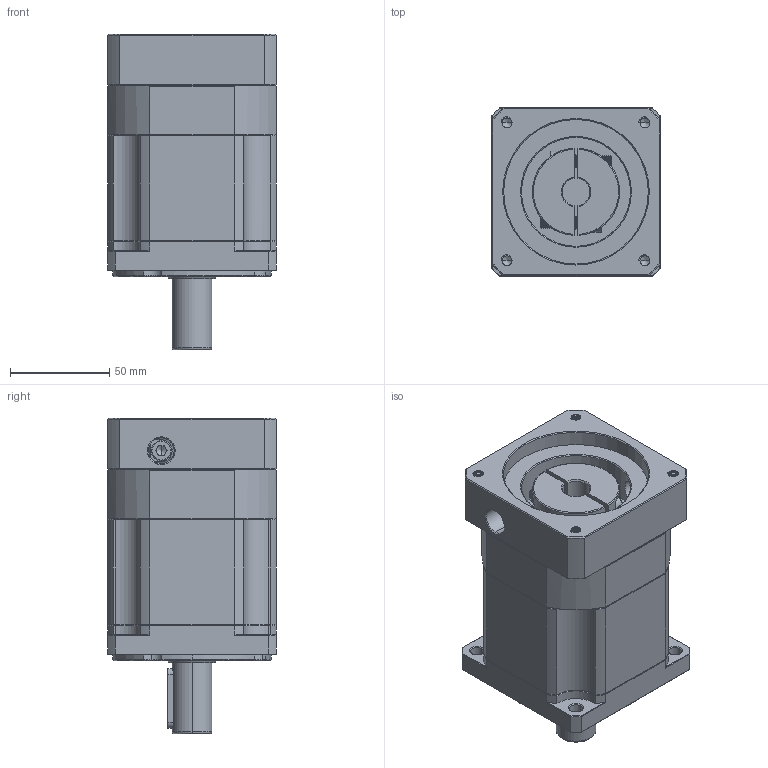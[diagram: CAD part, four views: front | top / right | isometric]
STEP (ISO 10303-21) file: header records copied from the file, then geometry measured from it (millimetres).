
FILE_DESCRIPTION (( 'STEP AP214' ), '1' );
FILE_NAME ('ZB090-D20-L2-P2-14-73-69.6X69.6-M6.step', '2023-08-18T12:10:10', ( '' ), ( '' ), 'SwSTEP 2.0', 'SolidWorks 2016', '' );
FILE_SCHEMA (( 'AUTOMOTIVE_DESIGN' ));
Length unit declared in the file: millimetre
Products named in the file (1): ZB090-D20-L2-P2-14-73-69.6X69.6-M6
Bounding box: 85 x 85 x 159.5 mm (x, y, z)
Volume: 727871.5 mm3; surface area: 92030.9 mm2
Topology: 4 solids, 5 shells, 2220 faces, 5890 edges, 3755 vertices
Faces by surface type: plane 1066, bspline 397, cylinder 396, cone 334, torus 27
Entity records: 120660 total; most frequent: CARTESIAN_POINT 44541, ORIENTED_EDGE 11736, DIRECTION 9180, EDGE_CURVE 5868, VERTEX_POINT 3755, VECTOR 3724, LINE 3724, AXIS2_PLACEMENT_3D 2728
